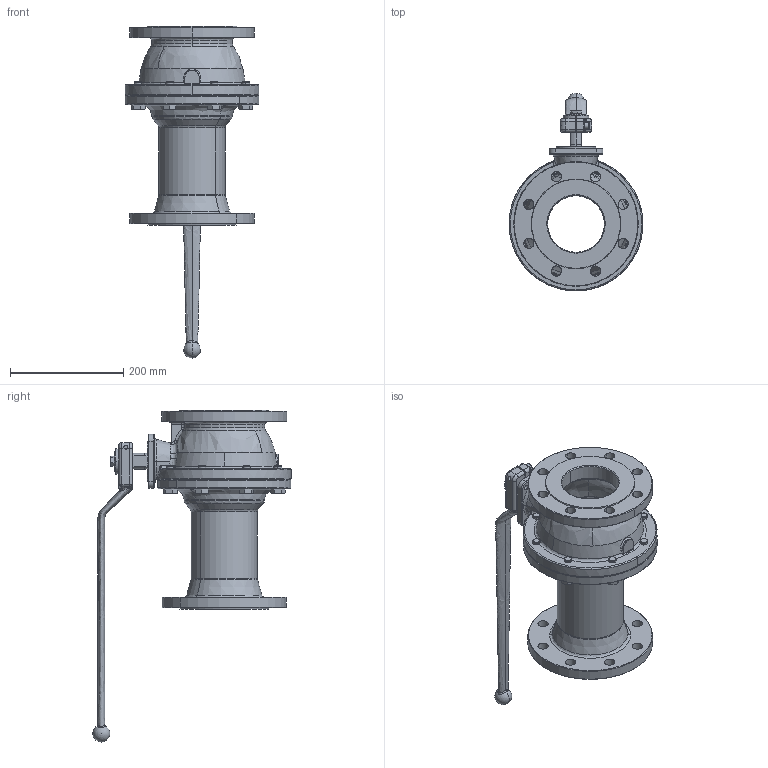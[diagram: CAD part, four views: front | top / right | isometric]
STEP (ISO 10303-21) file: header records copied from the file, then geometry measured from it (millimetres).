
FILE_DESCRIPTION (( 'STEP AP214' ), '1' );
FILE_NAME ('0316100.STEP', '2015-06-15T06:50:38', ( 'pere' ), ( '' ), 'SwSTEP 2.0', 'SolidWorks 2013', '' );
FILE_SCHEMA (( 'AUTOMOTIVE_DESIGN' ));
Length unit declared in the file: millimetre
Products named in the file (9): DIN 912 M8 x 25 --- 25C_DIN 912 M8 x 25 --- 25C; ISO 4017 - M14 x 40-C; ISO 4017 - M10 x 20-N_ISO 4017 - M10 x 20-N; 5180_17; M100CHST; EPI100Q; 0316100L; 0516100C; 0316100
Assembly tree (15 placements, depth 2):
  0316100
    0516100C
    0316100L
    EPI100Q
    M100CHST
    5180_17
    ISO 4017 - M10 x 20-N_ISO 4017 - M10 x 20-N
    ISO 4017 - M14 x 40-C  x8
    DIN 912 M8 x 25 --- 25C_DIN 912 M8 x 25 --- 25C
Bounding box: 236 x 349.7 x 585.5 mm (x, y, z)
Volume: 3688400.5 mm3; surface area: 646870.2 mm2
Topology: 15 solids, 15 shells, 784 faces, 1930 edges, 1168 vertices
Faces by surface type: cylinder 236, plane 228, cone 160, bspline 114, torus 42, sphere 4
Entity records: 42301 total; most frequent: CARTESIAN_POINT 28423, ORIENTED_EDGE 2946, DIRECTION 2582, EDGE_CURVE 1473, AXIS2_PLACEMENT_3D 1065, VERTEX_POINT 927, EDGE_LOOP 684, ADVANCED_FACE 581
